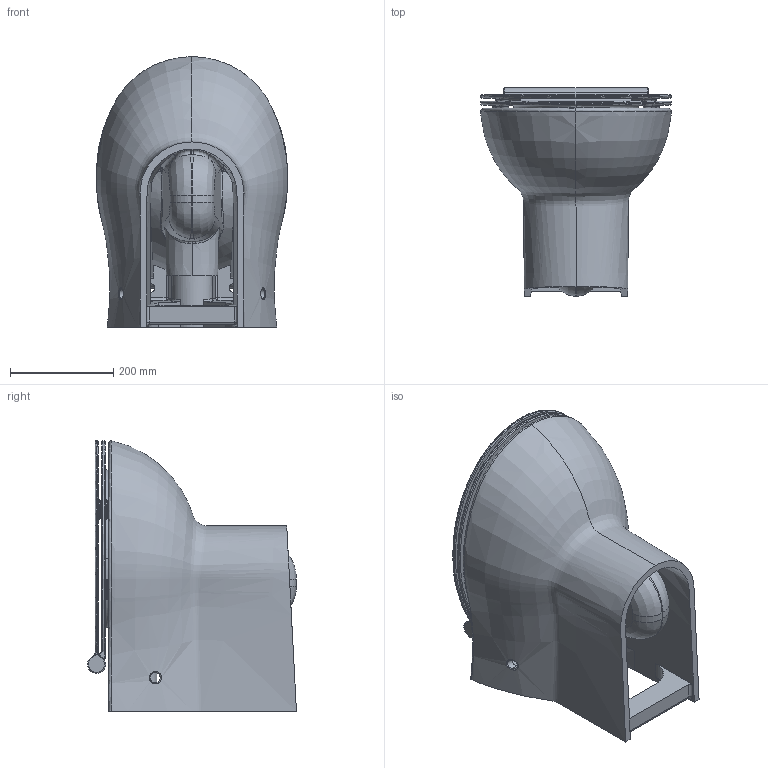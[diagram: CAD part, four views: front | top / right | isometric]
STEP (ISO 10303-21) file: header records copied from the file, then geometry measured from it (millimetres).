
FILE_DESCRIPTION (( 'STEP AP203' ), '1' );
FILE_NAME ('FAVKSP000000 - Copia.STEP', '2019-05-22T09:47:39', ( '' ), ( '' ), 'SwSTEP 2.0', 'SolidWorks 2019', '' );
FILE_SCHEMA (( 'CONFIG_CONTROL_DESIGN' ));
Length unit declared in the file: millimetre
Products named in the file (5): FAVKSP000000 - Copia; FAST COPRIWATER; FAST COPRIWATER coperchio; FAST COPRIWATER ciambella; WC FASTsospNEW
Assembly tree (4 placements, depth 3):
  FAVKSP000000 - Copia
    WC FASTsospNEW
    FAST COPRIWATER
      FAST COPRIWATER ciambella
      FAST COPRIWATER coperchio
Bounding box: 370.07 x 404.79 x 524.1 mm (x, y, z)
Volume: 16028750.4 mm3; surface area: 1707026 mm2
Topology: 3 solids, 3 shells, 524 faces, 1297 edges, 763 vertices
Faces by surface type: bspline 147, cylinder 142, torus 115, plane 82, sphere 26, cone 12
Entity records: 59217 total; most frequent: CARTESIAN_POINT 47378, ORIENTED_EDGE 2526, DIRECTION 2245, EDGE_CURVE 1263, AXIS2_PLACEMENT_3D 980, VERTEX_POINT 757, CIRCLE 595, EDGE_LOOP 560
